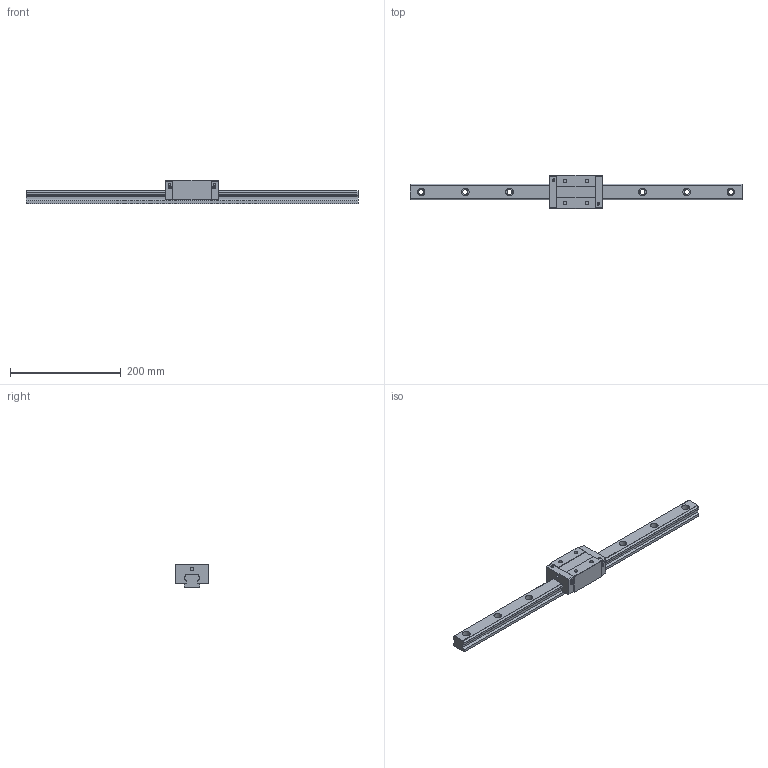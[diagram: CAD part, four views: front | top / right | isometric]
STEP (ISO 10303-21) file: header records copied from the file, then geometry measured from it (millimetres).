
FILE_DESCRIPTION (( 'STEP AP203' ), '1' );
FILE_NAME ('SRS30VN-XNC.STEP', '2026-02-12T07:48:52', ( '' ), ( '' ), 'SwSTEP 2.0', 'SolidWorks 2022', '' );
FILE_SCHEMA (( 'CONFIG_CONTROL_DESIGN' ));
Length unit declared in the file: millimetre
Products named in the file (1): SRS30VN-XNC
Bounding box: 600 x 60 x 42 mm (x, y, z)
Volume: 479234.1 mm3; surface area: 93657.9 mm2
Topology: 1 solids, 1 shells, 350 faces, 940 edges, 624 vertices
Faces by surface type: bspline 138, plane 124, cylinder 88
Entity records: 19429 total; most frequent: CARTESIAN_POINT 11317, ORIENTED_EDGE 1880, DIRECTION 1270, EDGE_CURVE 940, VERTEX_POINT 624, VECTOR 484, LINE 484, EDGE_LOOP 400
